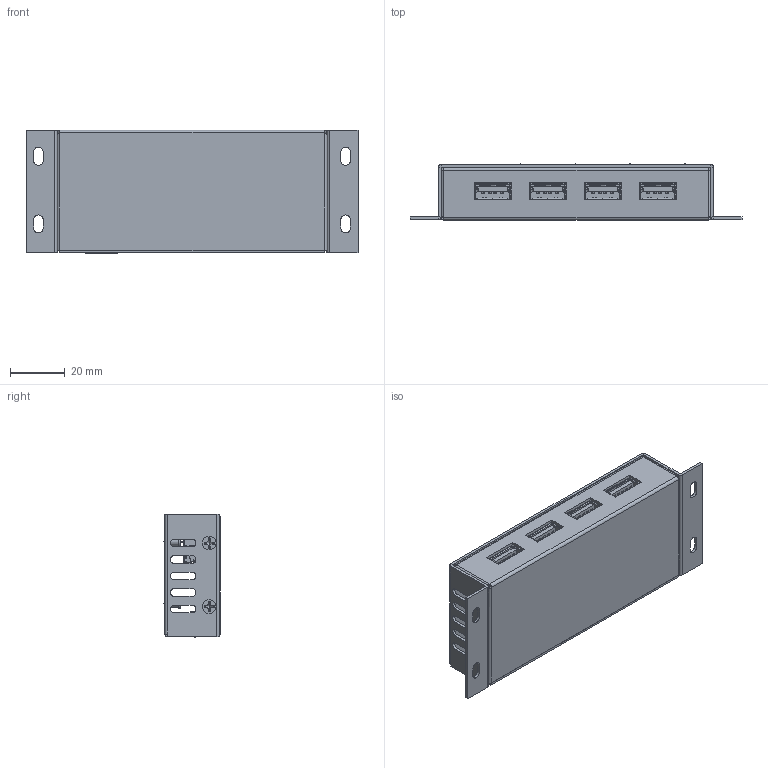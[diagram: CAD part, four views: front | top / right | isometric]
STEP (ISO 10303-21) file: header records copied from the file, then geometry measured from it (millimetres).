
FILE_DESCRIPTION(/* description */ (''),/* implementation_level */ '2;1');
FILE_NAME(/* name */ '/Users/leo/Desktop/Coolgear/USBG-4pminih Model3D LPV1.step',/* time_stamp */ '2021-05-11T09:59:20-04:00',/* author */ (''),/* organization */ (''),/* preprocessor_version */ 'ST-DEVELOPER v18.1',/* originating_system */ 'Autodesk Translation Framework v10.6.0.1341',/* authorisation */ '');
FILE_SCHEMA (('AUTOMOTIVE_DESIGN { 1 0 10303 214 3 1 1 }'));
Products named in the file (1): FusionComponent
Bounding box: 120.75 x 20.38 x 44.98 mm (x, y, z)
Volume: 22317.2 mm3; surface area: 45405 mm2
Topology: 1 solids, 41 shells, 5577 faces, 16308 edges, 10481 vertices
Faces by surface type: plane 4126, cylinder 1158, bspline 226, cone 60, sphere 5, torus 2
Full cylindrical faces by diameter (mm): 1.119 x1, 1.44 x1, 2.35 x8, 2.36 x1, 2.998 x5, 3 x19, 3.36 x2, 3.5 x2, 3.643 x5, 4 x1, 4.1 x1, 4.765 x1, 5.4 x2
Entity records: 189115 total; most frequent: CARTESIAN_POINT 41320, ORIENTED_EDGE 32590, DIRECTION 28672, EDGE_CURVE 16295, LINE 13196, VECTOR 13196, VERTEX_POINT 10481, AXIS2_PLACEMENT_3D 7738
